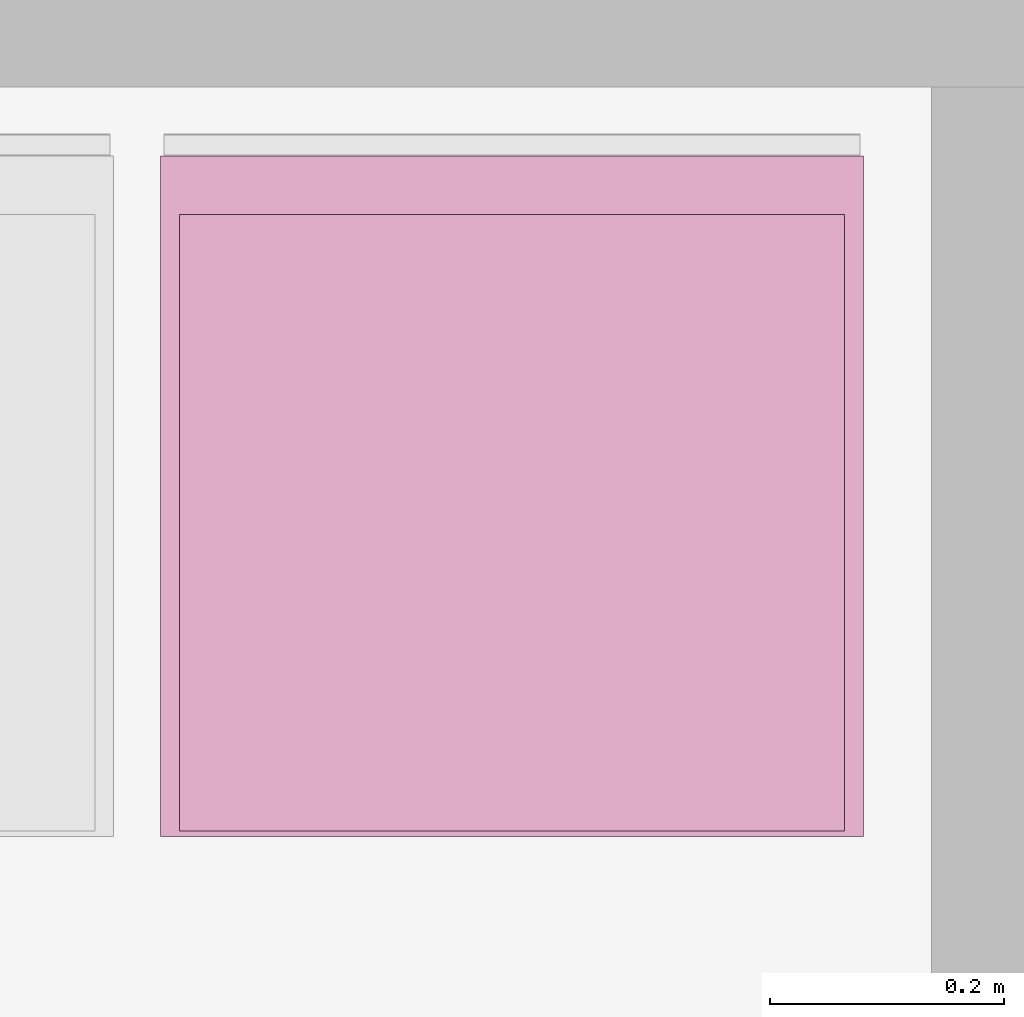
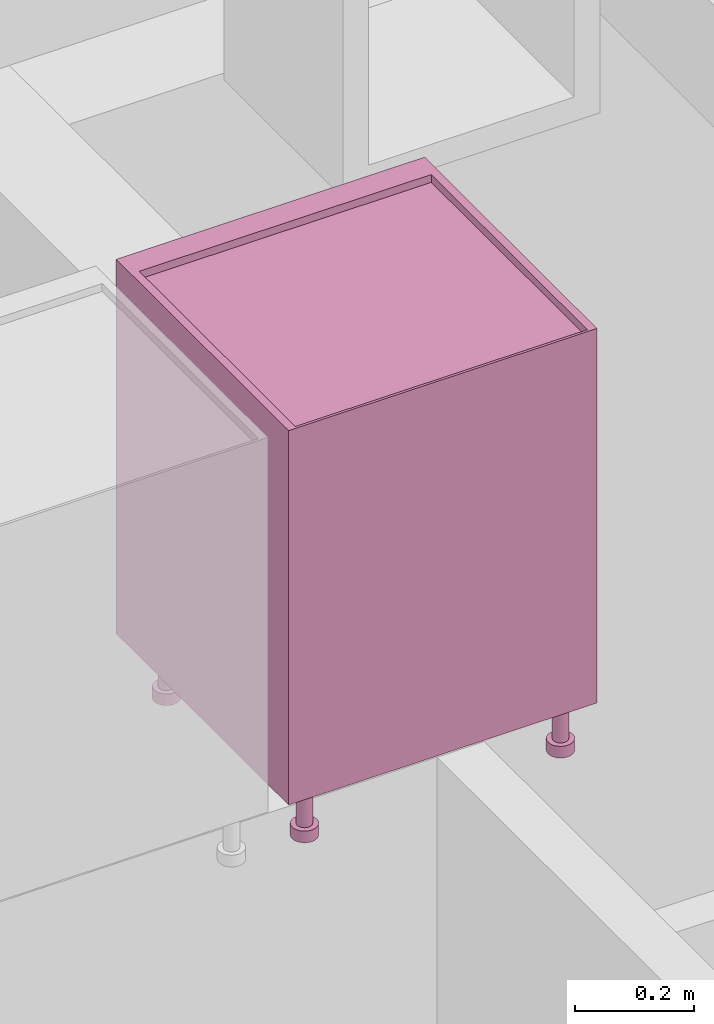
# One storey, part 87 of 125: 1 furnishing.
"""IFC2X3 building model written with IfcOpenShell, lengths in millimetres."""

from ifc_helpers import new_model, entity, si_unit, converted_unit, direction, frame, origin, place, context, subcontext, project, spatial, faceted_brep, source, transform, mapped, material, type_object, type_shapes, element, save


model = new_model("IFC2X3")

# Units and contexts
model_context = context("Model", 3, precision=0.01, world=origin(), true_north=direction((6.123233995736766e-17, 1.0)))
plan_context = context("Plan", 3, precision=0.01, world=origin(), true_north=direction((6.123233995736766e-17, 1.0)))
body_context = subcontext(model_context, "Body", "Model", "MODEL_VIEW")
ifc_project = project(units=[si_unit("LENGTHUNIT", "METRE", prefix="MILLI"), converted_unit("PLANEANGLEUNIT", "DEGREE", entity("IfcPlaneAngleMeasure", 0.017453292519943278), si_unit("PLANEANGLEUNIT", "RADIAN"), dimensions=[0, 0, 0, 0, 0, 0, 0]), si_unit("AREAUNIT", "SQUARE_METRE")], contexts=[model_context, plan_context])

# Site, building, storey, space
site_placement = place(None, origin())
site = spatial("IfcSite", under=ifc_project, at=site_placement, Name="Default", CompositionType="ELEMENT")
building_placement = place(site_placement, origin())
building = spatial("IfcBuilding", under=site, at=building_placement, CompositionType="ELEMENT")
storey_placement = place(building_placement, frame((0.0, 0.0, 3125.0)))
storey = spatial("IfcBuildingStorey", under=building, at=storey_placement, Name="2K", CompositionType="ELEMENT", Elevation=3125.0)
space_placement = place(storey_placement, origin())
space = spatial("IfcSpace", under=storey, at=space_placement, Name="2-4.7", CompositionType="ELEMENT", InteriorOrExteriorSpace="INTERNAL")

# Furnishing
ifc_material = material(Name="<Unnamed>")
furniture_type = type_object("IfcFurnitureType", Name="HR_Casework_Kitchen_Generic_Appliance_v3:Dishwasher", AssemblyPlace="NOTDEFINED", material=ifc_material)
shared_shape = source(origin(), body_context, "Body", "Brep", [
    faceted_brep([(305.7003264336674, -585.7846096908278, -3101.0), (310.6708891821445, -581.9705627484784, -3101.0), (300.70032643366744, -577.1243556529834, -3101.0), (297.32379306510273, -578.5229615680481, -3101.0), (299.91198351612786, -588.1822198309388, -3101.0), (303.59982137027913, -574.8994949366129, -3101.0), (314.4849361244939, -577.0, -3101.0), (305.82468208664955, -572.0, -3101.0), (307.2232880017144, -568.6234666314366, -3101.0), (316.8825462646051, -571.2116570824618, -3101.0), (307.70032643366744, -565.0, -3101.0), (317.7003264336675, -565.0, -3101.0), (307.2232880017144, -561.3765333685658, -3101.0), (316.88254626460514, -558.7883429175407, -3101.0), (305.82468208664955, -558.0, -3101.0), (314.484936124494, -553.0, -3101.0), (303.59982137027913, -555.1005050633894, -3101.0), (310.67088918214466, -548.0294372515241, -3101.0), (300.70032643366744, -552.875644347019, -3101.0), (305.7003264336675, -544.2153903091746, -3101.0), (297.32379306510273, -551.4770384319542, -3101.0), (299.91198351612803, -541.8177801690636, -3101.0), (293.7003264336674, -551.0, -3101.0), (293.70032643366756, -541.0, -3101.0), (290.07685980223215, -551.4770384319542, -3101.0), (287.488669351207, -541.8177801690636, -3101.0), (286.70032643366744, -552.875644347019, -3101.0), (281.7003264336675, -544.2153903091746, -3101.0), (283.80083149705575, -555.1005050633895, -3101.0), (276.7297636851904, -548.029437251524, -3101.0), (281.5759707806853, -558.0, -3101.0), (272.91571674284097, -553.0, -3101.0), (270.51810660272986, -558.7883429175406, -3101.0), (280.1773648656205, -561.3765333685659, -3101.0), (269.7003264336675, -565.0, -3101.0), (279.7003264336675, -565.0, -3101.0), (270.51810660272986, -571.2116570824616, -3101.0), (280.1773648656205, -568.6234666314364, -3101.0), (272.9157167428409, -577.0, -3101.0), (281.57597078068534, -572.0, -3101.0), (276.7297636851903, -581.9705627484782, -3101.0), (283.80083149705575, -574.8994949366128, -3101.0), (281.70032643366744, -585.7846096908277, -3101.0), (286.70032643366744, -577.1243556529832, -3101.0), (287.4886693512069, -588.1822198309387, -3101.0), (290.07685980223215, -578.5229615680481, -3101.0), (293.7003264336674, -589.0, -3101.0), (293.70032643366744, -579.0, -3101.0), (299.91198351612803, -541.8177801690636, -3125.0), (305.7003264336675, -544.2153903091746, -3125.0), (310.67088918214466, -548.0294372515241, -3125.0), (314.484936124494, -553.0, -3125.0), (316.88254626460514, -558.7883429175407, -3125.0), (317.7003264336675, -565.0, -3125.0), (316.8825462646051, -571.2116570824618, -3125.0), (314.4849361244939, -577.0, -3125.0), (310.6708891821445, -581.9705627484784, -3125.0), (305.7003264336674, -585.7846096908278, -3125.0), (299.91198351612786, -588.1822198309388, -3125.0), (293.7003264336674, -589.0, -3125.0), (287.4886693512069, -588.1822198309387, -3125.0), (281.70032643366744, -585.7846096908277, -3125.0), (276.7297636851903, -581.9705627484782, -3125.0), (272.9157167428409, -577.0, -3125.0), (270.51810660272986, -571.2116570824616, -3125.0), (269.7003264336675, -565.0, -3125.0), (270.51810660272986, -558.7883429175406, -3125.0), (272.91571674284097, -553.0, -3125.0), (276.7297636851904, -548.029437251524, -3125.0), (281.7003264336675, -544.2153903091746, -3125.0), (287.488669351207, -541.8177801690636, -3125.0), (293.70032643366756, -541.0, -3125.0), (297.32379306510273, -578.5229615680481, -3025.0), (300.70032643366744, -577.1243556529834, -3025.0), (303.59982137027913, -574.8994949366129, -3025.0), (305.8246820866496, -572.0, -3025.0), (307.2232880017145, -568.6234666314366, -3025.0), (307.70032643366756, -565.0, -3025.0), (307.2232880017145, -561.3765333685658, -3025.0), (305.8246820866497, -558.0, -3025.0), (303.5998213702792, -555.1005050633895, -3025.0), (300.70032643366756, -552.875644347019, -3025.0), (297.32379306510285, -551.4770384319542, -3025.0), (293.70032643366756, -551.0, -3025.0), (290.07685980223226, -551.4770384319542, -3025.0), (286.70032643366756, -552.875644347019, -3025.0), (283.80083149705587, -555.1005050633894, -3025.0), (281.5759707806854, -558.0, -3025.0), (280.1773648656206, -561.3765333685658, -3025.0), (279.70032643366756, -565.0, -3025.0), (280.1773648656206, -568.6234666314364, -3025.0), (281.5759707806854, -572.0, -3025.0), (283.8008314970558, -574.8994949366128, -3025.0), (286.7003264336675, -577.1243556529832, -3025.0), (290.07685980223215, -578.5229615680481, -3025.0), (293.70032643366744, -579.0, -3025.0)], [[[0, 1, 2]], [[0, 2, 3]], [[3, 4, 0]], [[2, 1, 5]], [[6, 5, 1]], [[7, 5, 6]], [[8, 7, 6]], [[8, 6, 9]], [[8, 9, 10]], [[10, 9, 11]], [[12, 10, 11]], [[12, 11, 13]], [[14, 12, 13]], [[14, 13, 15]], [[16, 14, 15]], [[15, 17, 16]], [[17, 18, 16]], [[18, 17, 19]], [[18, 19, 20]], [[21, 20, 19]], [[20, 21, 22]], [[22, 21, 23]], [[23, 24, 22]], [[24, 23, 25]], [[24, 25, 26]], [[27, 26, 25]], [[27, 28, 26]], [[27, 29, 28]], [[30, 28, 29]], [[31, 30, 29]], [[32, 30, 31]], [[33, 30, 32]], [[33, 32, 34]], [[34, 35, 33]], [[36, 35, 34]], [[36, 37, 35]], [[37, 36, 38]], [[39, 37, 38]], [[39, 38, 40]], [[39, 40, 41]], [[40, 42, 41]], [[41, 42, 43]], [[43, 42, 44]], [[44, 45, 43]], [[46, 45, 44]], [[4, 47, 46]], [[45, 46, 47]], [[4, 3, 47]], [[48, 49, 50, 51, 52, 53, 54, 55, 56, 57, 58, 59, 60, 61, 62, 63, 64, 65, 66, 67, 68, 69, 70, 71]], [[64, 36, 34, 65]], [[63, 38, 36, 64]], [[42, 40, 62, 61]], [[63, 62, 40, 38]], [[44, 42, 61, 60]], [[46, 44, 60, 59]], [[58, 4, 46, 59]], [[57, 0, 4, 58]], [[54, 53, 11, 9]], [[1, 0, 57, 56]], [[6, 55, 54, 9]], [[6, 1, 56, 55]], [[52, 13, 11, 53]], [[51, 15, 13, 52]], [[19, 17, 50, 49]], [[51, 50, 17, 15]], [[21, 19, 49, 48]], [[23, 21, 48, 71]], [[27, 69, 68, 29]], [[31, 67, 66, 32]], [[68, 67, 31, 29]], [[32, 66, 65, 34]], [[25, 70, 69, 27]], [[70, 25, 23, 71]], [[72, 73, 74, 75, 76, 77, 78, 79, 80, 81, 82, 83, 84, 85, 86, 87, 88, 89, 90, 91, 92, 93, 94, 95]], [[37, 39, 91, 90]], [[35, 37, 90, 89]], [[43, 45, 94, 93]], [[41, 43, 93, 92]], [[39, 41, 92, 91]], [[47, 95, 94, 45]], [[2, 5, 74, 73]], [[3, 2, 73, 72]], [[8, 10, 77, 76]], [[7, 8, 76, 75]], [[5, 7, 75, 74]], [[3, 72, 95, 47]], [[79, 78, 12, 14]], [[78, 77, 10, 12]], [[80, 16, 18, 81]], [[16, 80, 79, 14]], [[81, 18, 20, 82]], [[22, 83, 82, 20]], [[26, 28, 86, 85]], [[24, 26, 85, 84]], [[33, 35, 89, 88]], [[30, 33, 88, 87]], [[28, 30, 87, 86]], [[24, 84, 83, 22]]]),
    faceted_brep([(-192.29967356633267, -585.7846096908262, -3101.0), (-187.3291108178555, -581.9705627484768, -3101.0), (-197.29967356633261, -577.1243556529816, -3101.0), (-200.67620693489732, -578.5229615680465, -3101.0), (-198.08801648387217, -588.1822198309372, -3101.0), (-194.40017862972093, -574.8994949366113, -3101.0), (-183.51506387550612, -577.0, -3101.0), (-192.17531791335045, -572.0, -3101.0), (-190.77671199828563, -568.6234666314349, -3101.0), (-181.11745373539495, -571.2116570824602, -3101.0), (-190.29967356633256, -565.0, -3101.0), (-180.29967356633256, -565.0, -3101.0), (-190.77671199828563, -561.3765333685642, -3101.0), (-181.11745373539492, -558.788342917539, -3101.0), (-192.17531791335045, -558.0, -3101.0), (-183.515063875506, -553.0, -3101.0), (-194.40017862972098, -555.1005050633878, -3101.0), (-187.3291108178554, -548.0294372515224, -3101.0), (-197.29967356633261, -552.8756443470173, -3101.0), (-192.29967356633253, -544.215390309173, -3101.0), (-200.67620693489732, -551.4770384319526, -3101.0), (-198.08801648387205, -541.8177801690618, -3101.0), (-204.29967356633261, -551.0, -3101.0), (-204.29967356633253, -541.0, -3101.0), (-207.92314019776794, -551.4770384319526, -3101.0), (-210.51133064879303, -541.8177801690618, -3101.0), (-211.29967356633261, -552.8756443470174, -3101.0), (-216.29967356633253, -544.215390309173, -3101.0), (-214.19916850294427, -555.1005050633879, -3101.0), (-221.27023631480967, -548.0294372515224, -3101.0), (-216.42402921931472, -558.0, -3101.0), (-225.08428325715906, -553.0, -3101.0), (-227.48189339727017, -558.788342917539, -3101.0), (-217.8226351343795, -561.3765333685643, -3101.0), (-228.2996735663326, -565.0, -3101.0), (-218.29967356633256, -565.0, -3101.0), (-227.48189339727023, -571.21165708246, -3101.0), (-217.8226351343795, -568.6234666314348, -3101.0), (-225.08428325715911, -577.0, -3101.0), (-216.42402921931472, -572.0, -3101.0), (-221.27023631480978, -581.9705627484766, -3101.0), (-214.19916850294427, -574.8994949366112, -3101.0), (-216.29967356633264, -585.784609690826, -3101.0), (-211.29967356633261, -577.1243556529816, -3101.0), (-210.51133064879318, -588.1822198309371, -3101.0), (-207.9231401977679, -578.5229615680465, -3101.0), (-204.2996735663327, -589.0, -3101.0), (-204.29967356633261, -579.0, -3101.0), (-198.08801648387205, -541.8177801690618, -3125.0), (-192.29967356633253, -544.215390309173, -3125.0), (-187.3291108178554, -548.0294372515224, -3125.0), (-183.515063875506, -553.0, -3125.0), (-181.11745373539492, -558.788342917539, -3125.0), (-180.29967356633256, -565.0, -3125.0), (-181.11745373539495, -571.2116570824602, -3125.0), (-183.51506387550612, -577.0, -3125.0), (-187.3291108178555, -581.9705627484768, -3125.0), (-192.29967356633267, -585.7846096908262, -3125.0), (-198.08801648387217, -588.1822198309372, -3125.0), (-204.2996735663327, -589.0, -3125.0), (-210.51133064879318, -588.1822198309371, -3125.0), (-216.29967356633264, -585.784609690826, -3125.0), (-221.27023631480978, -581.9705627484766, -3125.0), (-225.08428325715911, -577.0, -3125.0), (-227.48189339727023, -571.21165708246, -3125.0), (-228.2996735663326, -565.0, -3125.0), (-227.48189339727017, -558.788342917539, -3125.0), (-225.08428325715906, -553.0, -3125.0), (-221.27023631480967, -548.0294372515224, -3125.0), (-216.29967356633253, -544.215390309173, -3125.0), (-210.51133064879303, -541.8177801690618, -3125.0), (-204.29967356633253, -541.0, -3125.0), (-200.67620693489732, -578.5229615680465, -3025.0), (-197.29967356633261, -577.1243556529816, -3025.0), (-194.40017862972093, -574.8994949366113, -3025.0), (-192.17531791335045, -572.0, -3025.0), (-190.77671199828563, -568.6234666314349, -3025.0), (-190.29967356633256, -565.0, -3025.0), (-190.77671199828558, -561.3765333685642, -3025.0), (-192.1753179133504, -558.0, -3025.0), (-194.40017862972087, -555.1005050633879, -3025.0), (-197.29967356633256, -552.8756443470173, -3025.0), (-200.67620693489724, -551.4770384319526, -3025.0), (-204.29967356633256, -551.0, -3025.0), (-207.92314019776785, -551.4770384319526, -3025.0), (-211.29967356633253, -552.8756443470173, -3025.0), (-214.1991685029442, -555.1005050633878, -3025.0), (-216.4240292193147, -558.0, -3025.0), (-217.8226351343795, -561.3765333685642, -3025.0), (-218.29967356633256, -565.0, -3025.0), (-217.8226351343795, -568.6234666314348, -3025.0), (-216.42402921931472, -572.0, -3025.0), (-214.19916850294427, -574.8994949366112, -3025.0), (-211.2996735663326, -577.1243556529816, -3025.0), (-207.9231401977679, -578.5229615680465, -3025.0), (-204.29967356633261, -579.0, -3025.0)], [[[0, 1, 2]], [[0, 2, 3]], [[3, 4, 0]], [[2, 1, 5]], [[6, 5, 1]], [[7, 5, 6]], [[8, 7, 6]], [[8, 6, 9]], [[8, 9, 10]], [[10, 9, 11]], [[12, 10, 11]], [[12, 11, 13]], [[14, 12, 13]], [[14, 13, 15]], [[16, 14, 15]], [[15, 17, 16]], [[17, 18, 16]], [[18, 17, 19]], [[18, 19, 20]], [[21, 20, 19]], [[20, 21, 22]], [[22, 21, 23]], [[23, 24, 22]], [[24, 23, 25]], [[24, 25, 26]], [[27, 26, 25]], [[27, 28, 26]], [[27, 29, 28]], [[30, 28, 29]], [[31, 30, 29]], [[32, 30, 31]], [[33, 30, 32]], [[33, 32, 34]], [[34, 35, 33]], [[36, 35, 34]], [[36, 37, 35]], [[37, 36, 38]], [[39, 37, 38]], [[39, 38, 40]], [[39, 40, 41]], [[40, 42, 41]], [[41, 42, 43]], [[43, 42, 44]], [[44, 45, 43]], [[46, 45, 44]], [[4, 47, 46]], [[45, 46, 47]], [[4, 3, 47]], [[48, 49, 50, 51, 52, 53, 54, 55, 56, 57, 58, 59, 60, 61, 62, 63, 64, 65, 66, 67, 68, 69, 70, 71]], [[64, 36, 34, 65]], [[63, 38, 36, 64]], [[42, 40, 62, 61]], [[63, 62, 40, 38]], [[44, 42, 61, 60]], [[46, 44, 60, 59]], [[58, 4, 46, 59]], [[57, 0, 4, 58]], [[54, 53, 11, 9]], [[1, 0, 57, 56]], [[6, 55, 54, 9]], [[6, 1, 56, 55]], [[52, 13, 11, 53]], [[51, 15, 13, 52]], [[19, 17, 50, 49]], [[51, 50, 17, 15]], [[21, 19, 49, 48]], [[23, 21, 48, 71]], [[27, 69, 68, 29]], [[31, 67, 66, 32]], [[68, 67, 31, 29]], [[32, 66, 65, 34]], [[25, 70, 69, 27]], [[70, 25, 23, 71]], [[72, 73, 74, 75, 76, 77, 78, 79, 80, 81, 82, 83, 84, 85, 86, 87, 88, 89, 90, 91, 92, 93, 94, 95]], [[37, 39, 91, 90]], [[35, 37, 90, 89]], [[43, 45, 94, 93]], [[41, 43, 93, 92]], [[39, 41, 92, 91]], [[47, 95, 94, 45]], [[2, 5, 74, 73]], [[3, 2, 73, 72]], [[8, 10, 77, 76]], [[7, 8, 76, 75]], [[5, 7, 75, 74]], [[3, 72, 95, 47]], [[79, 78, 12, 14]], [[78, 77, 10, 12]], [[80, 16, 18, 81]], [[16, 80, 79, 14]], [[81, 18, 20, 82]], [[22, 83, 82, 20]], [[26, 28, 86, 85]], [[24, 26, 85, 84]], [[33, 35, 89, 88]], [[30, 33, 88, 87]], [[28, 30, 87, 86]], [[24, 84, 83, 22]]]),
    faceted_brep([(305.70032643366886, -120.78460969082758, -3101.0), (310.670889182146, -116.97056274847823, -3101.0), (300.7003264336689, -112.12435565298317, -3101.0), (297.3237930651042, -113.52296156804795, -3101.0), (299.91198351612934, -123.18221983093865, -3101.0), (303.5998213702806, -109.8994949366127, -3101.0), (314.48493612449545, -112.0, -3101.0), (305.824682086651, -107.0, -3101.0), (307.2232880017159, -103.62346663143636, -3101.0), (316.88254626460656, -106.21165708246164, -3101.0), (307.700326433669, -100.0, -3101.0), (317.700326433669, -100.0, -3101.0), (307.2232880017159, -96.3765333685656, -3101.0), (316.8825462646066, -93.78834291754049, -3101.0), (305.824682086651, -93.0, -3101.0), (314.4849361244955, -88.0, -3101.0), (303.5998213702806, -90.10050506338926, -3101.0), (310.67088918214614, -83.02943725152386, -3101.0), (300.7003264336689, -87.8756443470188, -3101.0), (305.700326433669, -79.21539030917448, -3101.0), (297.3237930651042, -86.477038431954, -3101.0), (299.9119835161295, -76.81778016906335, -3101.0), (293.70032643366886, -86.0, -3101.0), (293.70032643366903, -76.0, -3101.0), (290.0768598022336, -86.47703843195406, -3101.0), (287.4886693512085, -76.81778016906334, -3101.0), (286.7003264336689, -87.87564434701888, -3101.0), (281.700326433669, -79.21539030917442, -3101.0), (283.8008314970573, -90.10050506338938, -3101.0), (276.72976368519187, -83.0294372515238, -3101.0), (281.5759707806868, -93.0, -3101.0), (272.91571674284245, -88.0, -3101.0), (270.51810660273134, -93.78834291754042, -3101.0), (280.177364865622, -96.37653336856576, -3101.0), (269.700326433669, -100.0, -3101.0), (279.700326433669, -100.0, -3101.0), (270.51810660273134, -106.2116570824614, -3101.0), (280.177364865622, -103.62346663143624, -3101.0), (272.9157167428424, -112.0, -3101.0), (281.5759707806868, -107.0, -3101.0), (276.72976368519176, -116.97056274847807, -3101.0), (283.8008314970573, -109.89949493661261, -3101.0), (281.7003264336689, -120.78460969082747, -3101.0), (286.7003264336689, -112.1243556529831, -3101.0), (287.4886693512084, -123.1822198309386, -3101.0), (290.0768598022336, -113.52296156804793, -3101.0), (293.70032643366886, -124.0, -3101.0), (293.7003264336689, -114.0, -3101.0), (299.9119835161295, -76.81778016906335, -3125.0), (305.700326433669, -79.21539030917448, -3125.0), (310.67088918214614, -83.02943725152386, -3125.0), (314.4849361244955, -88.0, -3125.0), (316.8825462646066, -93.78834291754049, -3125.0), (317.700326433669, -100.0, -3125.0), (316.88254626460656, -106.21165708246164, -3125.0), (314.48493612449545, -112.0, -3125.0), (310.670889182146, -116.97056274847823, -3125.0), (305.70032643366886, -120.78460969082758, -3125.0), (299.91198351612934, -123.18221983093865, -3125.0), (293.70032643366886, -124.0, -3125.0), (287.4886693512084, -123.1822198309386, -3125.0), (281.7003264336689, -120.78460969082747, -3125.0), (276.72976368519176, -116.97056274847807, -3125.0), (272.9157167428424, -112.0, -3125.0), (270.51810660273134, -106.2116570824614, -3125.0), (269.700326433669, -100.0, -3125.0), (270.51810660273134, -93.78834291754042, -3125.0), (272.91571674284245, -88.0, -3125.0), (276.72976368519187, -83.0294372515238, -3125.0), (281.700326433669, -79.21539030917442, -3125.0), (287.4886693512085, -76.81778016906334, -3125.0), (293.70032643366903, -76.0, -3125.0), (297.32379306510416, -113.52296156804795, -3025.0), (300.70032643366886, -112.12435565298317, -3025.0), (303.59982137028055, -109.8994949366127, -3025.0), (305.824682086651, -107.0, -3025.0), (307.22328800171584, -103.62346663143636, -3025.0), (307.700326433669, -100.0, -3025.0), (307.2232880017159, -96.3765333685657, -3025.0), (305.82468208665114, -93.0, -3025.0), (303.5998213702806, -90.10050506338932, -3025.0), (300.700326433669, -87.87564434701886, -3025.0), (297.32379306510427, -86.47703843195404, -3025.0), (293.700326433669, -86.0, -3025.0), (290.0768598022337, -86.47703843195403, -3025.0), (286.700326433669, -87.87564434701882, -3025.0), (283.8008314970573, -90.1005050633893, -3025.0), (281.5759707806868, -93.0, -3025.0), (280.177364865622, -96.37653336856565, -3025.0), (279.700326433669, -100.0, -3025.0), (280.177364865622, -103.62346663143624, -3025.0), (281.5759707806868, -107.0, -3025.0), (283.80083149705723, -109.89949493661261, -3025.0), (286.7003264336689, -112.1243556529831, -3025.0), (290.07685980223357, -113.52296156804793, -3025.0), (293.70032643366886, -114.0, -3025.0)], [[[0, 1, 2]], [[0, 2, 3]], [[3, 4, 0]], [[2, 1, 5]], [[6, 5, 1]], [[7, 5, 6]], [[8, 7, 6]], [[8, 6, 9]], [[8, 9, 10]], [[10, 9, 11]], [[12, 10, 11]], [[12, 11, 13]], [[14, 12, 13]], [[14, 13, 15]], [[16, 14, 15]], [[15, 17, 16]], [[17, 18, 16]], [[18, 17, 19]], [[18, 19, 20]], [[21, 20, 19]], [[20, 21, 22]], [[22, 21, 23]], [[23, 24, 22]], [[24, 23, 25]], [[24, 25, 26]], [[27, 26, 25]], [[27, 28, 26]], [[27, 29, 28]], [[30, 28, 29]], [[31, 30, 29]], [[32, 30, 31]], [[33, 30, 32]], [[33, 32, 34]], [[34, 35, 33]], [[36, 35, 34]], [[36, 37, 35]], [[37, 36, 38]], [[39, 37, 38]], [[39, 38, 40]], [[39, 40, 41]], [[40, 42, 41]], [[41, 42, 43]], [[43, 42, 44]], [[44, 45, 43]], [[46, 45, 44]], [[4, 47, 46]], [[45, 46, 47]], [[4, 3, 47]], [[48, 49, 50, 51, 52, 53, 54, 55, 56, 57, 58, 59, 60, 61, 62, 63, 64, 65, 66, 67, 68, 69, 70, 71]], [[64, 36, 34, 65]], [[63, 38, 36, 64]], [[42, 40, 62, 61]], [[63, 62, 40, 38]], [[44, 42, 61, 60]], [[46, 44, 60, 59]], [[58, 4, 46, 59]], [[57, 0, 4, 58]], [[54, 53, 11, 9]], [[1, 0, 57, 56]], [[6, 55, 54, 9]], [[6, 1, 56, 55]], [[52, 13, 11, 53]], [[51, 15, 13, 52]], [[19, 17, 50, 49]], [[51, 50, 17, 15]], [[21, 19, 49, 48]], [[23, 21, 48, 71]], [[27, 69, 68, 29]], [[31, 67, 66, 32]], [[68, 67, 31, 29]], [[32, 66, 65, 34]], [[25, 70, 69, 27]], [[70, 25, 23, 71]], [[72, 73, 74, 75, 76, 77, 78, 79, 80, 81, 82, 83, 84, 85, 86, 87, 88, 89, 90, 91, 92, 93, 94, 95]], [[37, 39, 91, 90]], [[35, 37, 90, 89]], [[43, 45, 94, 93]], [[41, 43, 93, 92]], [[39, 41, 92, 91]], [[47, 95, 94, 45]], [[2, 5, 74, 73]], [[3, 2, 73, 72]], [[8, 10, 77, 76]], [[7, 8, 76, 75]], [[5, 7, 75, 74]], [[3, 72, 95, 47]], [[79, 78, 12, 14]], [[78, 77, 10, 12]], [[80, 16, 18, 81]], [[16, 80, 79, 14]], [[81, 18, 20, 82]], [[22, 83, 82, 20]], [[26, 28, 86, 85]], [[24, 26, 85, 84]], [[33, 35, 89, 88]], [[30, 33, 88, 87]], [[28, 30, 87, 86]], [[24, 84, 83, 22]]]),
    faceted_brep([(-192.299673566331, -120.78460969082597, -3101.0), (-187.3291108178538, -116.97056274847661, -3101.0), (-197.29967356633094, -112.12435565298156, -3101.0), (-200.67620693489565, -113.52296156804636, -3101.0), (-198.0880164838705, -123.18221983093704, -3101.0), (-194.40017862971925, -109.89949493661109, -3101.0), (-183.5150638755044, -112.0, -3101.0), (-192.17531791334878, -107.0, -3101.0), (-190.77671199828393, -103.62346663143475, -3101.0), (-181.11745373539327, -106.21165708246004, -3101.0), (-190.29967356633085, -100.0, -3101.0), (-180.29967356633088, -100.0, -3101.0), (-190.77671199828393, -96.376533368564, -3101.0), (-181.11745373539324, -93.78834291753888, -3101.0), (-192.17531791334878, -93.0, -3101.0), (-183.51506387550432, -88.0, -3101.0), (-194.40017862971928, -90.10050506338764, -3101.0), (-187.32911081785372, -83.02943725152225, -3101.0), (-197.29967356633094, -87.8756443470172, -3101.0), (-192.29967356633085, -79.21539030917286, -3101.0), (-200.67620693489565, -86.4770384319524, -3101.0), (-198.08801648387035, -76.81778016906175, -3101.0), (-204.29967356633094, -86.0, -3101.0), (-204.29967356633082, -76.0, -3101.0), (-207.92314019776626, -86.47703843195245, -3101.0), (-210.51133064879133, -76.81778016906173, -3101.0), (-211.29967356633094, -87.87564434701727, -3101.0), (-216.29967356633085, -79.21539030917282, -3101.0), (-214.19916850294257, -90.10050506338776, -3101.0), (-221.270236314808, -83.0294372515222, -3101.0), (-216.424029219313, -93.0, -3101.0), (-225.08428325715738, -88.0, -3101.0), (-227.4818933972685, -93.78834291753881, -3101.0), (-217.82263513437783, -96.37653336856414, -3101.0), (-228.29967356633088, -100.0, -3101.0), (-218.29967356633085, -100.0, -3101.0), (-227.48189339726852, -106.2116570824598, -3101.0), (-217.82263513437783, -103.62346663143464, -3101.0), (-225.08428325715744, -112.0, -3101.0), (-216.424029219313, -107.0, -3101.0), (-221.27023631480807, -116.97056274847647, -3101.0), (-214.19916850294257, -109.899494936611, -3101.0), (-216.29967356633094, -120.78460969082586, -3101.0), (-211.29967356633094, -112.12435565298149, -3101.0), (-210.51133064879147, -123.18221983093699, -3101.0), (-207.9231401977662, -113.52296156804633, -3101.0), (-204.299673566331, -124.0, -3101.0), (-204.29967356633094, -114.0, -3101.0), (-198.08801648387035, -76.81778016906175, -3125.0), (-192.29967356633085, -79.21539030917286, -3125.0), (-187.32911081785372, -83.02943725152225, -3125.0), (-183.51506387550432, -88.0, -3125.0), (-181.11745373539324, -93.78834291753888, -3125.0), (-180.29967356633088, -100.0, -3125.0), (-181.11745373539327, -106.21165708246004, -3125.0), (-183.5150638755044, -112.0, -3125.0), (-187.3291108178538, -116.97056274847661, -3125.0), (-192.299673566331, -120.78460969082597, -3125.0), (-198.0880164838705, -123.18221983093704, -3125.0), (-204.299673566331, -124.0, -3125.0), (-210.51133064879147, -123.18221983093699, -3125.0), (-216.29967356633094, -120.78460969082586, -3125.0), (-221.27023631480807, -116.97056274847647, -3125.0), (-225.08428325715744, -112.0, -3125.0), (-227.48189339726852, -106.2116570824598, -3125.0), (-228.29967356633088, -100.0, -3125.0), (-227.4818933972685, -93.78834291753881, -3125.0), (-225.08428325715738, -88.0, -3125.0), (-221.270236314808, -83.0294372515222, -3125.0), (-216.29967356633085, -79.21539030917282, -3125.0), (-210.51133064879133, -76.81778016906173, -3125.0), (-204.29967356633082, -76.0, -3125.0), (-200.67620693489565, -113.52296156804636, -3025.0), (-197.29967356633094, -112.12435565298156, -3025.0), (-194.40017862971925, -109.89949493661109, -3025.0), (-192.17531791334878, -107.0, -3025.0), (-190.77671199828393, -103.62346663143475, -3025.0), (-190.29967356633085, -100.0, -3025.0), (-190.7767119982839, -96.3765333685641, -3025.0), (-192.1753179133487, -93.0, -3025.0), (-194.4001786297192, -90.10050506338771, -3025.0), (-197.29967356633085, -87.87564434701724, -3025.0), (-200.67620693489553, -86.47703843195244, -3025.0), (-204.29967356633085, -86.0, -3025.0), (-207.92314019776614, -86.47703843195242, -3025.0), (-211.29967356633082, -87.87564434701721, -3025.0), (-214.1991685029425, -90.10050506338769, -3025.0), (-216.42402921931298, -93.0, -3025.0), (-217.82263513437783, -96.37653336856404, -3025.0), (-218.29967356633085, -100.0, -3025.0), (-217.82263513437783, -103.62346663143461, -3025.0), (-216.424029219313, -107.0, -3025.0), (-214.19916850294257, -109.899494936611, -3025.0), (-211.29967356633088, -112.12435565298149, -3025.0), (-207.9231401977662, -113.52296156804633, -3025.0), (-204.29967356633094, -114.0, -3025.0)], [[[0, 1, 2]], [[0, 2, 3]], [[3, 4, 0]], [[2, 1, 5]], [[6, 5, 1]], [[7, 5, 6]], [[8, 7, 6]], [[8, 6, 9]], [[8, 9, 10]], [[10, 9, 11]], [[12, 10, 11]], [[12, 11, 13]], [[14, 12, 13]], [[14, 13, 15]], [[16, 14, 15]], [[15, 17, 16]], [[17, 18, 16]], [[18, 17, 19]], [[18, 19, 20]], [[21, 20, 19]], [[20, 21, 22]], [[22, 21, 23]], [[23, 24, 22]], [[24, 23, 25]], [[24, 25, 26]], [[27, 26, 25]], [[27, 28, 26]], [[27, 29, 28]], [[30, 28, 29]], [[31, 30, 29]], [[32, 30, 31]], [[33, 30, 32]], [[33, 32, 34]], [[34, 35, 33]], [[36, 35, 34]], [[36, 37, 35]], [[37, 36, 38]], [[39, 37, 38]], [[39, 38, 40]], [[39, 40, 41]], [[40, 42, 41]], [[41, 42, 43]], [[43, 42, 44]], [[44, 45, 43]], [[46, 45, 44]], [[4, 47, 46]], [[45, 46, 47]], [[4, 3, 47]], [[48, 49, 50, 51, 52, 53, 54, 55, 56, 57, 58, 59, 60, 61, 62, 63, 64, 65, 66, 67, 68, 69, 70, 71]], [[64, 36, 34, 65]], [[63, 38, 36, 64]], [[42, 40, 62, 61]], [[63, 62, 40, 38]], [[44, 42, 61, 60]], [[46, 44, 60, 59]], [[58, 4, 46, 59]], [[57, 0, 4, 58]], [[54, 53, 11, 9]], [[1, 0, 57, 56]], [[6, 55, 54, 9]], [[6, 1, 56, 55]], [[52, 13, 11, 53]], [[51, 15, 13, 52]], [[19, 17, 50, 49]], [[51, 50, 17, 15]], [[21, 19, 49, 48]], [[23, 21, 48, 71]], [[27, 69, 68, 29]], [[31, 67, 66, 32]], [[68, 67, 31, 29]], [[32, 66, 65, 34]], [[25, 70, 69, 27]], [[70, 25, 23, 71]], [[72, 73, 74, 75, 76, 77, 78, 79, 80, 81, 82, 83, 84, 85, 86, 87, 88, 89, 90, 91, 92, 93, 94, 95]], [[37, 39, 91, 90]], [[35, 37, 90, 89]], [[43, 45, 94, 93]], [[41, 43, 93, 92]], [[39, 41, 92, 91]], [[47, 95, 94, 45]], [[2, 5, 74, 73]], [[3, 2, 73, 72]], [[8, 10, 77, 76]], [[7, 8, 76, 75]], [[5, 7, 75, 74]], [[3, 72, 95, 47]], [[79, 78, 12, 14]], [[78, 77, 10, 12]], [[80, 16, 18, 81]], [[16, 80, 79, 14]], [[81, 18, 20, 82]], [[22, 83, 82, 20]], [[26, 28, 86, 85]], [[24, 26, 85, 84]], [[33, 35, 89, 88]], [[30, 33, 88, 87]], [[28, 30, 87, 86]], [[24, 84, 83, 22]]]),
    faceted_brep([(328.70032643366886, -19.0, -3009.0), (-239.2996735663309, -19.0, -3009.0), (-239.29967356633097, -595.0, -3009.0), (328.70032643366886, -595.0, -3009.0), (328.70032643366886, -19.0, -3025.0), (328.70032643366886, -595.0, -3025.0), (-239.29967356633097, -595.0, -3025.0), (-239.29967356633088, -19.0, -3025.0)], [[[0, 1, 2, 3]], [[4, 5, 6, 7]], [[1, 0, 4, 7]], [[2, 1, 7, 6]], [[3, 2, 6, 5]], [[0, 3, 5, 4]]]),
    faceted_brep([(-255.29967356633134, -19.0, -2255.0), (-255.2996735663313, -600.0, -2255.0), (344.7003264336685, -600.0, -2255.0), (344.7003264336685, -19.0, -2255.0), (328.70032643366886, -19.0, -2255.0), (328.70032643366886, -595.0, -2255.0), (-239.2996735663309, -595.0, -2255.0), (-239.2996735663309, -19.0, -2255.0), (-255.29967356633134, -19.0, -3025.0), (-239.2996735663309, -19.0, -3025.0), (-239.29967356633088, -595.0, -3025.0), (328.70032643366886, -595.0, -3025.0), (328.70032643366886, -19.0, -3025.0), (344.7003264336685, -19.0, -3025.0), (344.7003264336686, -600.0, -3025.0), (-255.2996735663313, -600.0, -3025.0)], [[[0, 1, 2, 3, 4, 5, 6, 7]], [[8, 9, 10, 11, 12, 13, 14, 15]], [[1, 0, 8, 15]], [[0, 7, 9, 8]], [[7, 6, 10, 9]], [[5, 4, 12, 11]], [[4, 3, 13, 12]], [[3, 2, 14, 13]], [[2, 1, 15, 14]], [[6, 5, 11, 10]]]),
    faceted_brep([(328.70032643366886, -69.0, -2255.0), (328.70032643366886, -19.0, -2255.0), (-239.29967356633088, -19.0, -2255.0), (-239.29967356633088, -69.0, -2255.0), (328.70032643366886, -69.0, -2271.0), (-239.29967356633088, -69.0, -2271.0), (-239.29967356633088, -19.0, -2271.0), (328.70032643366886, -19.0, -2271.0)], [[[0, 1, 2, 3]], [[4, 5, 6, 7]], [[0, 3, 5, 4]], [[3, 2, 6, 5]], [[2, 1, 7, 6]], [[1, 0, 4, 7]]]),
    faceted_brep([(328.7003264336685, -19.0, -2271.0), (-239.29967356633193, -19.0, -2271.0), (-239.2996735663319, -595.0, -2271.0), (328.7003264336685, -595.0, -2271.0), (328.7003264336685, -19.0, -3009.0), (328.7003264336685, -595.0, -3009.0), (-239.2996735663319, -595.0, -3009.0), (-239.2996735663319, -19.0, -3009.0)], [[[0, 1, 2, 3]], [[4, 5, 6, 7]], [[1, 0, 4, 7]], [[2, 1, 7, 6]], [[3, 2, 6, 5]], [[0, 3, 5, 4]]]),
])
type_shapes(furniture_type, [shared_shape])
furnishing_placement = place(space_placement, frame((13085.293208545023, 6359.999959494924, 6295.0)))
element("IfcFurnishingElement", 1, at=furnishing_placement, inside=space, type_object=furniture_type, material=ifc_material, Name="HR_Casework_Kitchen_Generic_Appliance_v3:Dishwasher", ObjectType="HR_Casework_Kitchen_Generic_Appliance_v3:Dishwasher", context=body_context, shape_type="MappedRepresentation", body=[
    mapped(shared_shape, transform((0.0, 0.0, 0.0), scale=1.0)),
])

save(model, "model.ifc")
